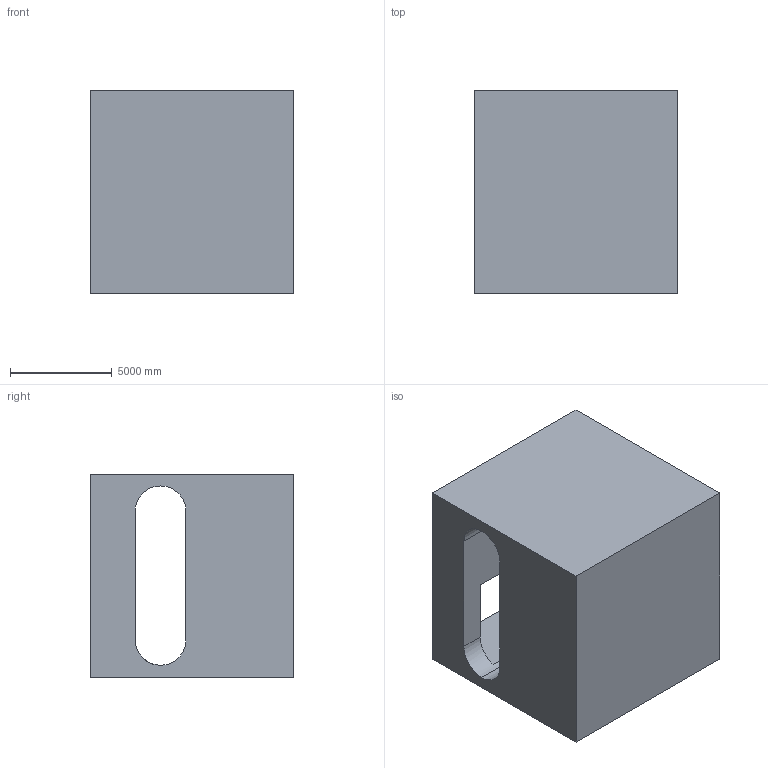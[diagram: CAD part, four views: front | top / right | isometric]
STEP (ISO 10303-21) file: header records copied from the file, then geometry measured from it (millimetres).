
FILE_DESCRIPTION (( 'STEP AP203' ), '1' );
FILE_NAME ('1057.STEP', '2022-08-18T12:35:37', ( 'user' ), ( '' ), 'SwSTEP 2.0', 'SolidWorks 2021', '' );
FILE_SCHEMA (( 'CONFIG_CONTROL_DESIGN' ));
Length unit declared in the file: centimetre
Products named in the file (1): 1057
Bounding box: 10000 x 10000 x 10000 mm (x, y, z)
Volume: 702551510192.3 mm3; surface area: 729964337.5 mm2
Topology: 1 solids, 1 shells, 15 faces, 42 edges, 28 vertices
Faces by surface type: plane 12, cylinder 3
Entity records: 564 total; most frequent: CARTESIAN_POINT 86, ORIENTED_EDGE 84, DIRECTION 81, EDGE_CURVE 42, LINE 35, VECTOR 35, VERTEX_POINT 28, AXIS2_PLACEMENT_3D 23
